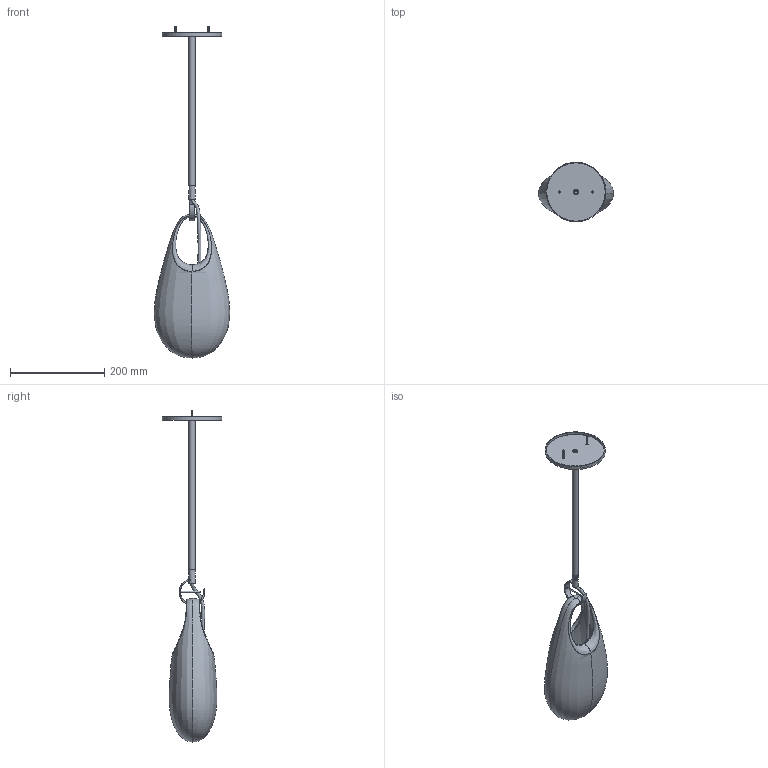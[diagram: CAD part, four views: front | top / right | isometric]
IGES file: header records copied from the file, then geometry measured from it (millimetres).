
Global section: file name: /Users/danielszollosi/Documents/SkLO/Sklo.com/3D models/WEB 3D Models/SkLO_Hold_12_Pendant_LT264_3D.igs; native system: Rhinoceros ( Sep 24 2023 ); preprocessor: Trout Lake IGES 012 Sep 24 2023; date: 241021.221205; units: millimetre
Bounding box: 159.99 x 126.94 x 705.53 mm (x, y, z)
Surface area: 257538.2 mm2 (no closed solid volume)
Topology: 0 solids, 0 shells, 636 faces, 16180 edges, 16109 vertices
Faces by surface type: bspline 636
